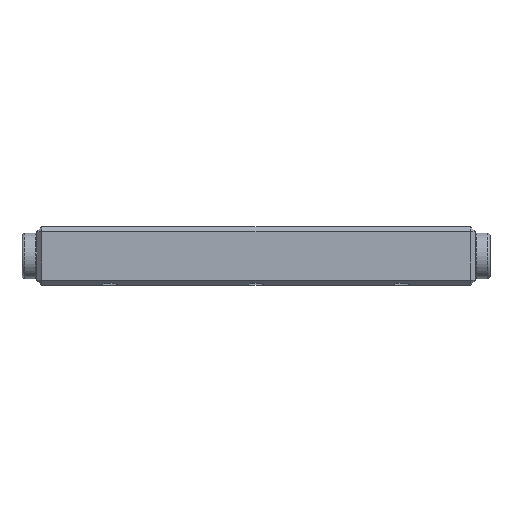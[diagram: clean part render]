
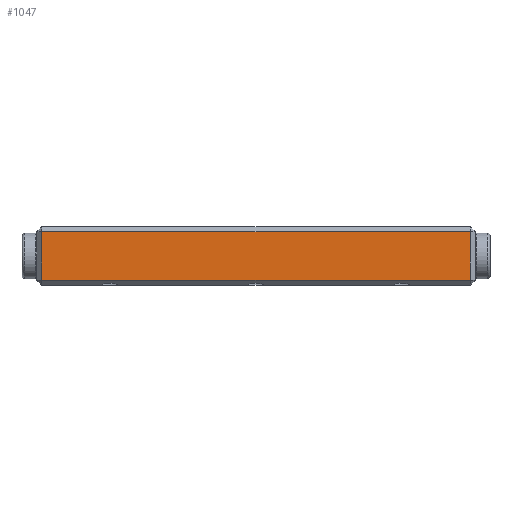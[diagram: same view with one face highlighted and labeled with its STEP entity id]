
A CAD part, top view. The second image highlights one B-rep face of the part: STEP entity #1047.
In plain terms, the highlighted planar face has unit normal (0, 0, 1) as drawn and (0, 0, -1) by its records, which use the part's own axes.
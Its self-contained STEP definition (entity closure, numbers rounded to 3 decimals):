
#37 = EDGE_CURVE ( 'NONE', #3623, #4891, #7399, .T. ) ;
#1047 = ADVANCED_FACE ( 'NONE', ( #3130 ), #8252, .F. ) ;
#1556 = DIRECTION ( 'NONE',  ( 1., 0., 0. ) ) ;
#2597 = VERTEX_POINT ( 'NONE', #5445 ) ;
#2933 = CARTESIAN_POINT ( 'NONE',  ( 22., 3., 0. ) ) ;
#3130 = FACE_OUTER_BOUND ( 'NONE', #12014, .T. ) ;
#3158 = EDGE_CURVE ( 'NONE', #13609, #3623, #5322, .T. ) ;
#3276 = CARTESIAN_POINT ( 'NONE',  ( -22., -2.5, 0. ) ) ;
#3623 = VERTEX_POINT ( 'NONE', #3276 ) ;
#4064 = ORIENTED_EDGE ( 'NONE', *, *, #9078, .T. ) ;
#4412 = AXIS2_PLACEMENT_3D ( 'NONE', #10302, #14899, #7403 ) ;
#4891 = VERTEX_POINT ( 'NONE', #6128 ) ;
#5322 = LINE ( 'NONE', #10546, #9064 ) ;
#5445 = CARTESIAN_POINT ( 'NONE',  ( 22., 2.5, 0. ) ) ;
#5835 = ORIENTED_EDGE ( 'NONE', *, *, #16122, .T. ) ;
#6128 = CARTESIAN_POINT ( 'NONE',  ( -22., 2.5, 0. ) ) ;
#7399 = LINE ( 'NONE', #11275, #11650 ) ;
#7403 = DIRECTION ( 'NONE',  ( 0., -1., 0. ) ) ;
#8252 = PLANE ( 'NONE',  #4412 ) ;
#8713 = VECTOR ( 'NONE', #1556, 1000. ) ;
#9064 = VECTOR ( 'NONE', #15673, 1000. ) ;
#9078 = EDGE_CURVE ( 'NONE', #2597, #13609, #11775, .T. ) ;
#9144 = VECTOR ( 'NONE', #10509, 1000. ) ;
#10302 = CARTESIAN_POINT ( 'NONE',  ( 22.5, 3., 0. ) ) ;
#10509 = DIRECTION ( 'NONE',  ( 0., -1., 0. ) ) ;
#10546 = CARTESIAN_POINT ( 'NONE',  ( 22.5, -2.5, 0. ) ) ;
#11275 = CARTESIAN_POINT ( 'NONE',  ( -22., 3., 0. ) ) ;
#11612 = DIRECTION ( 'NONE',  ( 0., 1., 0. ) ) ;
#11650 = VECTOR ( 'NONE', #11612, 1000. ) ;
#11775 = LINE ( 'NONE', #2933, #9144 ) ;
#12014 = EDGE_LOOP ( 'NONE', ( #4064, #12066, #16157, #5835 ) ) ;
#12066 = ORIENTED_EDGE ( 'NONE', *, *, #3158, .T. ) ;
#13085 = LINE ( 'NONE', #14428, #8713 ) ;
#13609 = VERTEX_POINT ( 'NONE', #14259 ) ;
#14259 = CARTESIAN_POINT ( 'NONE',  ( 22., -2.5, 0. ) ) ;
#14428 = CARTESIAN_POINT ( 'NONE',  ( 22.5, 2.5, 0. ) ) ;
#14899 = DIRECTION ( 'NONE',  ( 0., 0., 1. ) ) ;
#15673 = DIRECTION ( 'NONE',  ( -1., 0., 0. ) ) ;
#16122 = EDGE_CURVE ( 'NONE', #4891, #2597, #13085, .T. ) ;
#16157 = ORIENTED_EDGE ( 'NONE', *, *, #37, .T. ) ;
